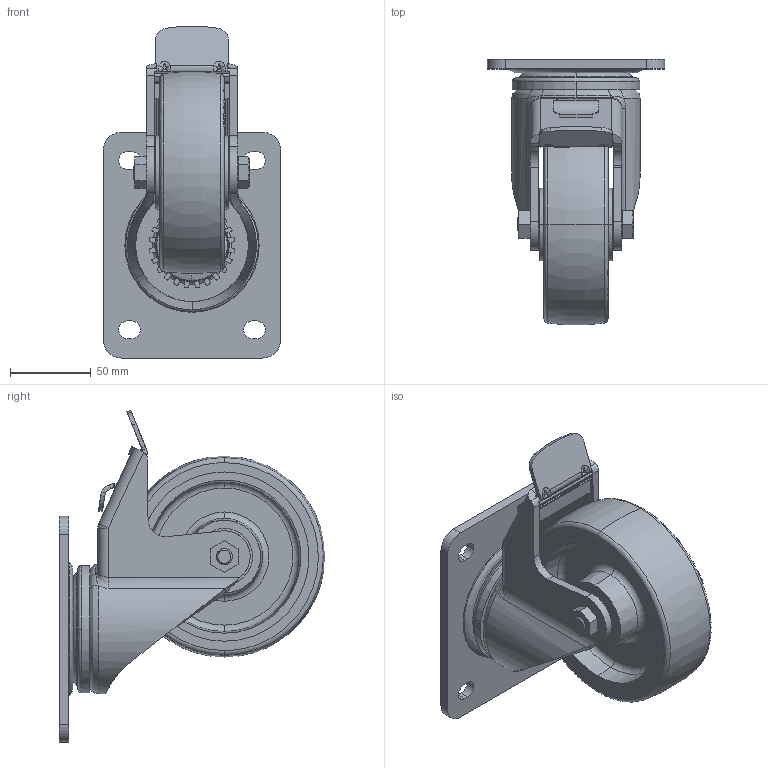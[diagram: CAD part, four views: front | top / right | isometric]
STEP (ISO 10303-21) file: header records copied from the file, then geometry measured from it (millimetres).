
FILE_DESCRIPTION (( 'STEP AP214' ), '1' );
FILE_NAME ('Transept Giltec-RPLD125F.STEP', '2013-06-03T08:14:52', ( 'Windows User' ), ( '' ), 'SwSTEP 2.0', 'SolidWorks 2013', '' );
FILE_SCHEMA (( 'AUTOMOTIVE_DESIGN' ));
Length unit declared in the file: millimetre
Products named in the file (3): Transept Giltec-RPLD125F_GH-LH_125-3-FI_D‚faut; Transept Giltec-RPLD125F_GTH-0_GTH_125_15K-4_D‚faut; Transept Giltec-RPLD125F
Assembly tree (2 placements, depth 2):
  Transept Giltec-RPLD125F
    Transept Giltec-RPLD125F_GTH-0_GTH_125_15K-4_D‚faut
    Transept Giltec-RPLD125F_GH-LH_125-3-FI_D‚faut
Bounding box: 110 x 164.86 x 205.94 mm (x, y, z)
Volume: 654153.2 mm3; surface area: 141613.9 mm2
Topology: 4 solids, 4 shells, 1123 faces, 3027 edges, 1958 vertices
Faces by surface type: plane 443, cylinder 308, bspline 280, cone 77, torus 15
Entity records: 70644 total; most frequent: CARTESIAN_POINT 33998, ORIENTED_EDGE 6044, DIRECTION 3378, EDGE_CURVE 3022, VERTEX_POINT 1958, B_SPLINE_CURVE_WITH_KNOTS 1503, EDGE_LOOP 1192, VECTOR 1176
